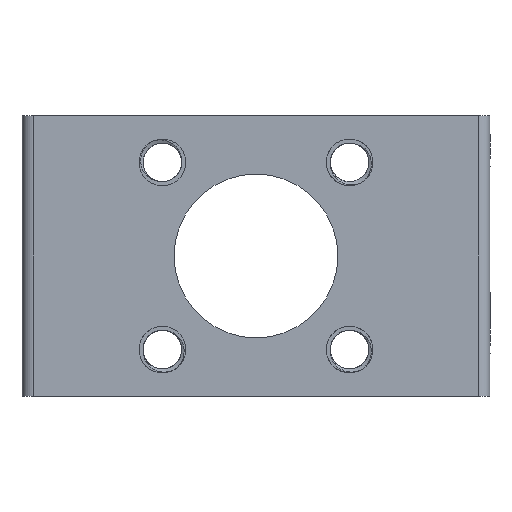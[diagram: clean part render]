
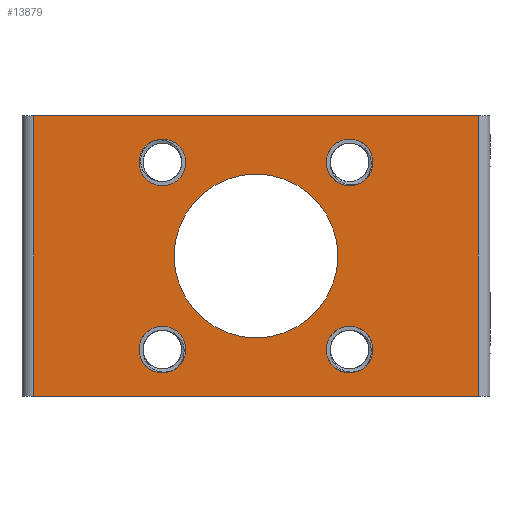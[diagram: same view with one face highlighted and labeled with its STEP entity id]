
A CAD part, front view. The second image highlights one B-rep face of the part: STEP entity #13879.
In plain terms, the highlighted planar face has unit normal (0, -1, 0).
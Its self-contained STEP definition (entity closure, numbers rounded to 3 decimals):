
#35=CARTESIAN_POINT('',(27.,0.,12.));
#36=VERTEX_POINT('',#35);
#37=CARTESIAN_POINT('',(20.,0.,12.));
#38=DIRECTION('',(1.,-0.,-0.));
#39=DIRECTION('',(0.,-1.,0.));
#40=AXIS2_PLACEMENT_3D('',#37,#39,#38);
#41=CIRCLE('',#40,7.);
#42=EDGE_CURVE('',#36,#36,#41,.T.);
#68=CARTESIAN_POINT('',(14.,0.,4.));
#69=VERTEX_POINT('',#68);
#70=CARTESIAN_POINT('',(12.,0.,4.));
#71=DIRECTION('',(1.,-0.,-0.));
#72=DIRECTION('',(0.,-1.,0.));
#73=AXIS2_PLACEMENT_3D('',#70,#72,#71);
#74=CIRCLE('',#73,2.);
#75=EDGE_CURVE('',#69,#69,#74,.T.);
#190=CARTESIAN_POINT('',(30.,0.,4.));
#191=VERTEX_POINT('',#190);
#192=CARTESIAN_POINT('',(28.,0.,4.));
#193=DIRECTION('',(1.,-0.,-0.));
#194=DIRECTION('',(0.,-1.,0.));
#195=AXIS2_PLACEMENT_3D('',#192,#194,#193);
#196=CIRCLE('',#195,2.);
#197=EDGE_CURVE('',#191,#191,#196,.T.);
#322=CARTESIAN_POINT('',(30.,0.,20.));
#323=VERTEX_POINT('',#322);
#324=CARTESIAN_POINT('',(28.,0.,20.));
#325=DIRECTION('',(1.,-0.,-0.));
#326=DIRECTION('',(0.,-1.,0.));
#327=AXIS2_PLACEMENT_3D('',#324,#326,#325);
#328=CIRCLE('',#327,2.);
#329=EDGE_CURVE('',#323,#323,#328,.T.);
#454=CARTESIAN_POINT('',(14.,0.,20.));
#455=VERTEX_POINT('',#454);
#456=CARTESIAN_POINT('',(12.,0.,20.));
#457=DIRECTION('',(1.,0.,0.));
#458=DIRECTION('',(0.,-1.,0.));
#459=AXIS2_PLACEMENT_3D('',#456,#458,#457);
#460=CIRCLE('',#459,2.);
#461=EDGE_CURVE('',#455,#455,#460,.T.);
#13825=CARTESIAN_POINT('',(20.,0.,12.));
#13826=DIRECTION('',(1.,0.,0.));
#13827=DIRECTION('',(0.,-1.,0.));
#13828=AXIS2_PLACEMENT_3D('',#13825,#13827,#13826);
#13829=PLANE('',#13828);
#13830=CARTESIAN_POINT('',(1.,0.,24.));
#13831=VERTEX_POINT('',#13830);
#13832=CARTESIAN_POINT('',(39.,0.,24.));
#13833=VERTEX_POINT('',#13832);
#13834=CARTESIAN_POINT('',(1.,0.,24.));
#13835=DIRECTION('',(1.,0.,0.));
#13836=VECTOR('',#13835,38.);
#13837=LINE('',#13834,#13836);
#13838=EDGE_CURVE('',#13831,#13833,#13837,.T.);
#13839=ORIENTED_EDGE('E5',*,*,#13838,.F.);
#13840=CARTESIAN_POINT('',(1.,0.,0.));
#13841=VERTEX_POINT('',#13840);
#13842=CARTESIAN_POINT('',(1.,0.,0.));
#13843=DIRECTION('',(0.,0.,1.));
#13844=VECTOR('',#13843,24.);
#13845=LINE('',#13842,#13844);
#13846=EDGE_CURVE('',#13841,#13831,#13845,.T.);
#13847=ORIENTED_EDGE('E793',*,*,#13846,.F.);
#13848=CARTESIAN_POINT('',(39.,0.,0.));
#13849=VERTEX_POINT('',#13848);
#13850=CARTESIAN_POINT('',(1.,0.,0.));
#13851=DIRECTION('',(1.,0.,0.));
#13852=VECTOR('',#13851,38.);
#13853=LINE('',#13850,#13852);
#13854=EDGE_CURVE('',#13841,#13849,#13853,.T.);
#13855=ORIENTED_EDGE('E1',*,*,#13854,.T.);
#13856=CARTESIAN_POINT('',(39.,0.,0.));
#13857=DIRECTION('',(0.,0.,1.));
#13858=VECTOR('',#13857,24.);
#13859=LINE('',#13856,#13858);
#13860=EDGE_CURVE('',#13849,#13833,#13859,.T.);
#13861=ORIENTED_EDGE('E780',*,*,#13860,.T.);
#13862=EDGE_LOOP('',(#13839,#13847,#13855,#13861));
#13863=FACE_OUTER_BOUND('',#13862,.T.);
#13864=ORIENTED_EDGE('',*,*,#329,.F.);
#13865=EDGE_LOOP('',(#13864));
#13866=FACE_BOUND('',#13865,.T.);
#13867=ORIENTED_EDGE('',*,*,#197,.F.);
#13868=EDGE_LOOP('',(#13867));
#13869=FACE_BOUND('',#13868,.T.);
#13870=ORIENTED_EDGE('',*,*,#75,.F.);
#13871=EDGE_LOOP('',(#13870));
#13872=FACE_BOUND('',#13871,.T.);
#13873=ORIENTED_EDGE('',*,*,#461,.F.);
#13874=EDGE_LOOP('',(#13873));
#13875=FACE_BOUND('',#13874,.T.);
#13876=ORIENTED_EDGE('',*,*,#42,.F.);
#13877=EDGE_LOOP('',(#13876));
#13878=FACE_BOUND('',#13877,.T.);
#13879=ADVANCED_FACE('F3',(#13863,#13866,#13869,#13872,#13875,#13878),#13829,.T.);
